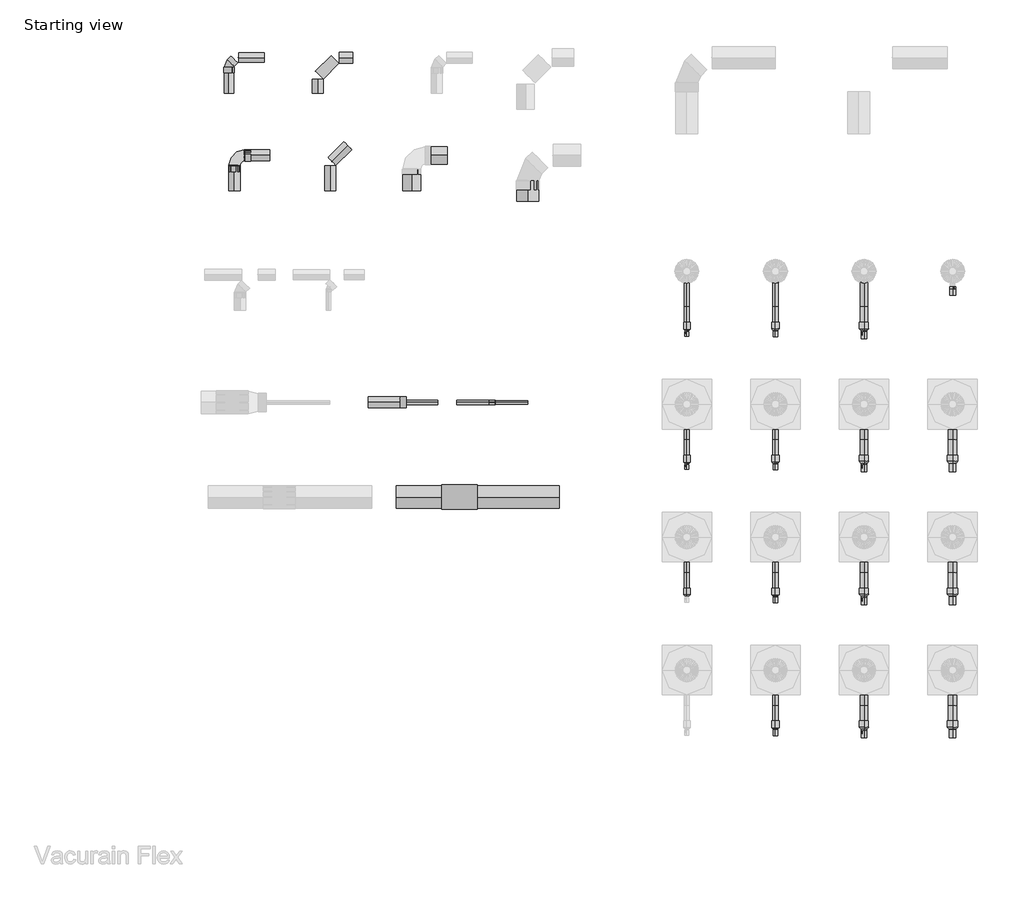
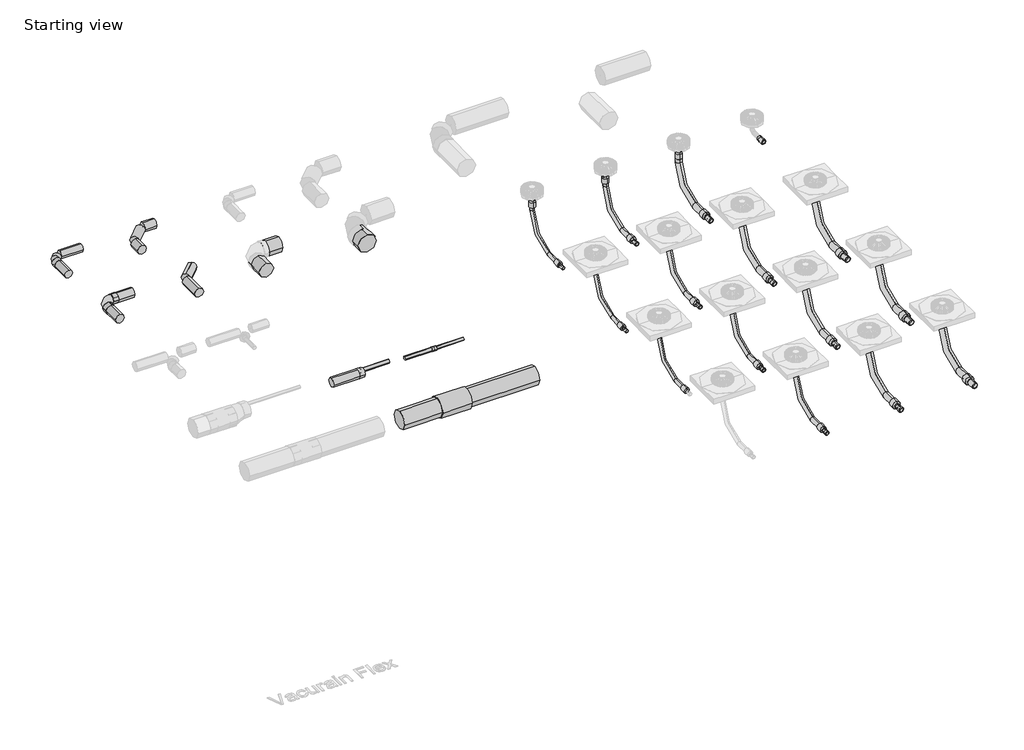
# One storey, part 2 of 3: 40 pipe fittings, 32 pipe segments.
"""IFC4 building model written with IfcOpenShell, lengths in millimetres."""

from ifc_helpers import new_model, si_unit, point, frame, frame_2d, origin, place, context, project, spatial, circle_curve, trimmed, segment, composite_curve, outline, extrude, transform, mapped, element, save
from components import nested_do_not_use_87300143, nested_do_not_use_da8473c7, nested_do_not_use_0ebd4f94, nested_do_not_use_587135c4, nested_do_not_use_1c18247b, nested_do_not_use_86b0c81e, nested_do_not_use_266bb334, nested_do_not_use_9b06eb31, nested_do_not_use_faedce5e, nested_do_not_use_786f549d, nested_do_not_use_5249c4b3, nested_do_not_use_9aa22a94, nested_do_not_use_1dabd0ae, nested_do_not_use_62e140e3, var_32dd6fe3, var_fa9adf68, var_8dcc252d, var_f0e763de, var_ae69e88d, var_ccfafadd, var_8f0a1fe7, nested_do_not_use_e4e1583a, nested_do_not_use_892fd5c0, nested_do_not_use_e5d02ef7, nested_do_not_use_11bc6f6c, nested_do_not_use_b77c716e

model = new_model("IFC4")

# Units and contexts
model_context = context("Model", 3, world=origin())
ifc_project = project(units=[si_unit("LENGTHUNIT", "METRE", prefix="MILLI")], contexts=[model_context])

# Site, building, storey
site = spatial("IfcSite", under=ifc_project)
building = spatial("IfcBuilding", under=site)
storey = spatial("IfcBuildingStorey", under=building, Name="Starting view", Elevation=0.0)

# Pipe fittings
placement = place(None, origin())
nested_do_not_use_shape = nested_do_not_use_87300143(model_context)
element("IfcPipeFitting", 1, ObjectType="NLRS_52_PIF_UN_Vacurain Flex spiebus_SH_Dyka : nested, do not use", at=placement, inside=storey, context=model_context, shape_type="MappedRepresentation", body=[
    mapped(nested_do_not_use_shape, transform((8549.7193273, -9655.1399334, 139.0), x_axis=(0.0, 1.0, 0.0), y_axis=(0.0, 0.0, 1.0), z_axis=(1.0, 0.0, 0.0))),
])
element("IfcPipeFitting", 2, ObjectType="NLRS_52_PIF_UN_Vacurain Flex spiebus_SH_Dyka : nested, do not use", at=placement, inside=storey, context=model_context, shape_type="MappedRepresentation", body=[
    mapped(nested_do_not_use_shape, transform((8549.7193273, -12655.1399334, 139.0), x_axis=(0.0, 1.0, 0.0), y_axis=(0.0, 0.0, 1.0), z_axis=(1.0, 0.0, 0.0))),
])
element("IfcPipeFitting", 3, ObjectType="NLRS_52_PIF_UN_Vacurain Flex spiebus_SH_Dyka : nested, do not use", at=placement, inside=storey, context=model_context, shape_type="MappedRepresentation", body=[
    mapped(nested_do_not_use_shape, transform((8549.7193273, -14155.1399334, 139.0), x_axis=(0.0, 1.0, 0.0), y_axis=(0.0, 0.0, 1.0), z_axis=(1.0, 0.0, 0.0))),
])
element("IfcPipeFitting", 4, ObjectType="NLRS_52_PIF_UN_Vacurain Flex spiebus_SH_Dyka : nested, do not use", at=placement, inside=storey, context=model_context, shape_type="MappedRepresentation", body=[
    mapped(nested_do_not_use_shape, transform((8549.7193273, -11155.1399334, 139.0), x_axis=(0.0, 1.0, 0.0), y_axis=(0.0, 0.0, 1.0), z_axis=(1.0, 0.0, 0.0))),
])
nested_do_not_use_2_shape = nested_do_not_use_da8473c7(model_context)
element("IfcPipeFitting", 5, ObjectType="NLRS_52_PIF_UN_Vacurain Flex borgbus_SH_Dyka : nested, do not use", at=placement, inside=storey, context=model_context, shape_type="MappedRepresentation", body=[
    mapped(nested_do_not_use_2_shape, transform((10549.7193273, -9194.1399334, 627.0), x_axis=(0.0, -1.0, 0.0), y_axis=(0.0, 0.0, -1.0), z_axis=(1.0, 0.0, 0.0))),
])
nested_do_not_use_3_shape = nested_do_not_use_0ebd4f94(model_context)
element("IfcPipeFitting", 6, ObjectType="NLRS_52_PIF_UN_Vacurain Flex klikmof_SH_Dyka : nested, do not use", at=placement, inside=storey, context=model_context, shape_type="MappedRepresentation", body=[
    mapped(nested_do_not_use_3_shape, transform((10549.7193273, -9202.1399334, 627.0), x_axis=(0.0, -1.0, 0.0), y_axis=(0.0, 0.0, -1.0), z_axis=(1.0, 0.0, 0.0))),
])
nested_do_not_use_4_shape = nested_do_not_use_587135c4(model_context)
element("IfcPipeFitting", 7, ObjectType="NLRS_52_PIF_UN_Vacurain Flex spiebus_SH_Dyka : nested, do not use", at=placement, inside=storey, context=model_context, shape_type="MappedRepresentation", body=[
    mapped(nested_do_not_use_4_shape, transform((7549.3431339, -9655.1399334, 139.0), x_axis=(0.0, 1.0, 0.0), y_axis=(0.0, 0.0, 1.0), z_axis=(1.0, 0.0, 0.0))),
])
element("IfcPipeFitting", 8, ObjectType="NLRS_52_PIF_UN_Vacurain Flex spiebus_SH_Dyka : nested, do not use", at=placement, inside=storey, context=model_context, shape_type="MappedRepresentation", body=[
    mapped(nested_do_not_use_4_shape, transform((7549.3431339, -11155.1399334, 139.0), x_axis=(0.0, 1.0, 0.0), y_axis=(0.0, 0.0, 1.0), z_axis=(1.0, 0.0, 0.0))),
])
nested_do_not_use_5_shape = nested_do_not_use_1c18247b(model_context)
element("IfcPipeFitting", 9, ObjectType="NLRS_52_PIF_UN_Vacurain Flex spiebus_SH_Dyka : nested, do not use", at=placement, inside=storey, context=model_context, shape_type="MappedRepresentation", body=[
    mapped(nested_do_not_use_5_shape, transform((9549.3431339, -9662.1399334, 139.0), x_axis=(0.0, 1.0, 0.0), y_axis=(0.0, 0.0, 1.0), z_axis=(1.0, 0.0, 0.0))),
])
element("IfcPipeFitting", 10, ObjectType="NLRS_52_PIF_UN_Vacurain Flex spiebus_SH_Dyka : nested, do not use", at=placement, inside=storey, context=model_context, shape_type="MappedRepresentation", body=[
    mapped(nested_do_not_use_5_shape, transform((9549.3431339, -11162.1399334, 139.0), x_axis=(0.0, 1.0, 0.0), y_axis=(0.0, 0.0, 1.0), z_axis=(1.0, 0.0, 0.0))),
])
element("IfcPipeFitting", 11, ObjectType="NLRS_52_PIF_UN_Vacurain Flex spiebus_SH_Dyka : nested, do not use", at=placement, inside=storey, context=model_context, shape_type="MappedRepresentation", body=[
    mapped(nested_do_not_use_5_shape, transform((9549.3431339, -12662.1399334, 139.0), x_axis=(0.0, 1.0, 0.0), y_axis=(0.0, 0.0, 1.0), z_axis=(1.0, 0.0, 0.0))),
])
element("IfcPipeFitting", 12, ObjectType="NLRS_52_PIF_UN_Vacurain Flex spiebus_SH_Dyka : nested, do not use", at=placement, inside=storey, context=model_context, shape_type="MappedRepresentation", body=[
    mapped(nested_do_not_use_5_shape, transform((9549.3431339, -14162.1399334, 139.0), x_axis=(0.0, 1.0, 0.0), y_axis=(0.0, 0.0, 1.0), z_axis=(1.0, 0.0, 0.0))),
])
nested_do_not_use_6_shape = nested_do_not_use_86b0c81e(model_context)
element("IfcPipeFitting", 13, ObjectType="NLRS_52_PIF_UN_Vacurain Flex spiebus_SH_Dyka : nested, do not use", at=placement, inside=storey, context=model_context, shape_type="MappedRepresentation", body=[
    mapped(nested_do_not_use_6_shape, transform((10549.3431339, -11160.6399334, 139.0), x_axis=(0.0, 1.0, 0.0), y_axis=(0.0, 0.0, 1.0), z_axis=(1.0, 0.0, 0.0))),
])
element("IfcPipeFitting", 14, ObjectType="NLRS_52_PIF_UN_Vacurain Flex spiebus_SH_Dyka : nested, do not use", at=placement, inside=storey, context=model_context, shape_type="MappedRepresentation", body=[
    mapped(nested_do_not_use_6_shape, transform((10549.3431339, -12660.6399334, 139.0), x_axis=(0.0, 1.0, 0.0), y_axis=(0.0, 0.0, 1.0), z_axis=(1.0, 0.0, 0.0))),
])
element("IfcPipeFitting", 15, ObjectType="NLRS_52_PIF_UN_Vacurain Flex spiebus_SH_Dyka : nested, do not use", at=placement, inside=storey, context=model_context, shape_type="MappedRepresentation", body=[
    mapped(nested_do_not_use_6_shape, transform((10549.3431339, -14160.6399334, 139.0), x_axis=(0.0, 1.0, 0.0), y_axis=(0.0, 0.0, 1.0), z_axis=(1.0, 0.0, 0.0))),
])
nested_do_not_use_7_shape = nested_do_not_use_266bb334(model_context)
element("IfcPipeFitting", 16, ObjectType="NLRS_52_PIF_UN_Vacurain Flex steekmof_SH_Dyka : nested, do not use", at=placement, inside=storey, context=model_context, shape_type="MappedRepresentation", body=[
    mapped(nested_do_not_use_7_shape, transform((5350.2772962, -10468.7826774, 200.0), x_axis=(1.0, 0.0, 0.0), y_axis=(0.0, 1.0, 0.0), z_axis=(0.0, 0.0, 1.0))),
])
element("IfcPipeFitting", 17, ObjectType="NLRS_52_PIF_UN_Vacurain Flex steekmof_SH_Dyka : nested, do not use", at=placement, inside=storey, context=model_context, shape_type="MappedRepresentation", body=[
    mapped(nested_do_not_use_7_shape, transform((8549.7193273, -9697.1399334, 139.0), x_axis=(0.0, 1.0, 0.0), y_axis=(0.0, 0.0, 1.0), z_axis=(1.0, 0.0, 0.0))),
])
element("IfcPipeFitting", 18, ObjectType="NLRS_52_PIF_UN_Vacurain Flex steekmof_SH_Dyka : nested, do not use", at=placement, inside=storey, context=model_context, shape_type="MappedRepresentation", body=[
    mapped(nested_do_not_use_7_shape, transform((8549.7193273, -12697.1399334, 139.0), x_axis=(0.0, 1.0, 0.0), y_axis=(0.0, 0.0, 1.0), z_axis=(1.0, 0.0, 0.0))),
])
element("IfcPipeFitting", 19, ObjectType="NLRS_52_PIF_UN_Vacurain Flex steekmof_SH_Dyka : nested, do not use", at=placement, inside=storey, context=model_context, shape_type="MappedRepresentation", body=[
    mapped(nested_do_not_use_7_shape, transform((8549.7193273, -14197.1399334, 139.0), x_axis=(0.0, 1.0, 0.0), y_axis=(0.0, 0.0, 1.0), z_axis=(1.0, 0.0, 0.0))),
])
element("IfcPipeFitting", 20, ObjectType="NLRS_52_PIF_UN_Vacurain Flex steekmof_SH_Dyka : nested, do not use", at=placement, inside=storey, context=model_context, shape_type="MappedRepresentation", body=[
    mapped(nested_do_not_use_7_shape, transform((8549.7193273, -11197.1399334, 139.0), x_axis=(0.0, 1.0, 0.0), y_axis=(0.0, 0.0, 1.0), z_axis=(1.0, 0.0, 0.0))),
])
nested_do_not_use_8_shape = nested_do_not_use_9b06eb31(model_context)
element("IfcPipeFitting", 21, ObjectType="NLRS_52_PIF_UN_Vacurain Flex steekmof_SH_Dyka : nested, do not use", at=placement, inside=storey, context=model_context, shape_type="MappedRepresentation", body=[
    mapped(nested_do_not_use_8_shape, transform((7549.3431339, -9697.1399334, 139.0), x_axis=(0.0, 1.0, 0.0), y_axis=(0.0, 0.0, 1.0), z_axis=(1.0, 0.0, 0.0))),
])
element("IfcPipeFitting", 22, ObjectType="NLRS_52_PIF_UN_Vacurain Flex steekmof_SH_Dyka : nested, do not use", at=placement, inside=storey, context=model_context, shape_type="MappedRepresentation", body=[
    mapped(nested_do_not_use_8_shape, transform((7549.3431339, -11197.1399334, 139.0), x_axis=(0.0, 1.0, 0.0), y_axis=(0.0, 0.0, 1.0), z_axis=(1.0, 0.0, 0.0))),
])
nested_do_not_use_9_shape = nested_do_not_use_faedce5e(model_context)
element("IfcPipeFitting", 23, ObjectType="NLRS_52_PIF_UN_Vacurain Flex steekmof_SH_Dyka : nested, do not use", at=placement, inside=storey, context=model_context, shape_type="MappedRepresentation", body=[
    mapped(nested_do_not_use_9_shape, transform((9549.3431339, -9711.1399334, 139.0), x_axis=(0.0, 1.0, 0.0), y_axis=(0.0, 0.0, 1.0), z_axis=(1.0, 0.0, 0.0))),
])
element("IfcPipeFitting", 24, ObjectType="NLRS_52_PIF_UN_Vacurain Flex steekmof_SH_Dyka : nested, do not use", at=placement, inside=storey, context=model_context, shape_type="MappedRepresentation", body=[
    mapped(nested_do_not_use_9_shape, transform((9549.3431339, -11211.1399334, 139.0), x_axis=(0.0, 1.0, 0.0), y_axis=(0.0, 0.0, 1.0), z_axis=(1.0, 0.0, 0.0))),
])
element("IfcPipeFitting", 25, ObjectType="NLRS_52_PIF_UN_Vacurain Flex steekmof_SH_Dyka : nested, do not use", at=placement, inside=storey, context=model_context, shape_type="MappedRepresentation", body=[
    mapped(nested_do_not_use_9_shape, transform((9549.3431339, -12711.1399334, 139.0), x_axis=(0.0, 1.0, 0.0), y_axis=(0.0, 0.0, 1.0), z_axis=(1.0, 0.0, 0.0))),
])
element("IfcPipeFitting", 26, ObjectType="NLRS_52_PIF_UN_Vacurain Flex steekmof_SH_Dyka : nested, do not use", at=placement, inside=storey, context=model_context, shape_type="MappedRepresentation", body=[
    mapped(nested_do_not_use_9_shape, transform((9549.3431339, -14211.1399334, 139.0), x_axis=(0.0, 1.0, 0.0), y_axis=(0.0, 0.0, 1.0), z_axis=(1.0, 0.0, 0.0))),
])
nested_do_not_use_10_shape = nested_do_not_use_786f549d(model_context)
element("IfcPipeFitting", 27, ObjectType="NLRS_52_PIF_UN_Vacurain Flex steekmof_SH_Dyka : nested, do not use", at=placement, inside=storey, context=model_context, shape_type="MappedRepresentation", body=[
    mapped(nested_do_not_use_10_shape, transform((10549.3431339, -11208.1399334, 139.0), x_axis=(0.0, 1.0, 0.0), y_axis=(0.0, 0.0, 1.0), z_axis=(1.0, 0.0, 0.0))),
])
element("IfcPipeFitting", 28, ObjectType="NLRS_52_PIF_UN_Vacurain Flex steekmof_SH_Dyka : nested, do not use", at=placement, inside=storey, context=model_context, shape_type="MappedRepresentation", body=[
    mapped(nested_do_not_use_10_shape, transform((10549.3431339, -12708.1399334, 139.0), x_axis=(0.0, 1.0, 0.0), y_axis=(0.0, 0.0, 1.0), z_axis=(1.0, 0.0, 0.0))),
])
element("IfcPipeFitting", 29, ObjectType="NLRS_52_PIF_UN_Vacurain Flex steekmof_SH_Dyka : nested, do not use", at=placement, inside=storey, context=model_context, shape_type="MappedRepresentation", body=[
    mapped(nested_do_not_use_10_shape, transform((10549.3431339, -14208.1399334, 139.0), x_axis=(0.0, 1.0, 0.0), y_axis=(0.0, 0.0, 1.0), z_axis=(1.0, 0.0, 0.0))),
])
nested_do_not_use_11_shape = nested_do_not_use_5249c4b3(model_context)
element("IfcPipeFitting", 30, ObjectType="NLRS_52_PIF_UN_Vacurain Flex verloop LV_SH_Dyka : nested, do not use", at=placement, inside=storey, context=model_context, shape_type="MappedRepresentation", body=[
    mapped(nested_do_not_use_11_shape, transform((5366.2772962, -10468.7826774, 200.0), x_axis=(-1.0, 0.0, 0.0), y_axis=(0.0, -1.0, 0.0), z_axis=(0.0, 0.0, 1.0))),
])
nested_do_not_use_12_shape = nested_do_not_use_9aa22a94(model_context)
element("IfcPipeFitting", 31, ObjectType="NLRS_52_PIF_UN_Vacurain Flex verloop LV_SH_Dyka : nested, do not use", at=placement, inside=storey, context=model_context, shape_type="MappedRepresentation", body=[
    mapped(nested_do_not_use_12_shape, transform((4327.2772962, -10468.7826774, 200.0), x_axis=(-1.0, 0.0, 0.0), y_axis=(0.0, -1.0, 0.0), z_axis=(0.0, 0.0, 1.0))),
])
nested_do_not_use_13_shape = nested_do_not_use_1dabd0ae(model_context)
element("IfcPipeFitting", 32, ObjectType="NLRS_52_PIF_UN_Vacurain Flex bocht 1LV_SH_Dyka : nested, do not use", at=placement, inside=storey, context=model_context, shape_type="MappedRepresentation", body=[
    mapped(nested_do_not_use_13_shape, transform((2381.9213273, -6658.8518157, 200.0), x_axis=(-0.7071067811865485, -0.7071067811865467, 0.0), y_axis=(0.7071067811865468, -0.7071067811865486, 0.0), z_axis=(0.0, 0.0, 1.0000000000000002))),
])
nested_do_not_use_14_shape = nested_do_not_use_62e140e3(model_context)
element("IfcPipeFitting", 33, ObjectType="NLRS_52_PIF_UN_Vacurain Flex bocht 2LV_SH_Dyka : nested, do not use", at=placement, inside=storey, context=model_context, shape_type="MappedRepresentation", body=[
    mapped(nested_do_not_use_14_shape, transform((2444.5626134, -7680.905443, 200.0), x_axis=(-1.0, 0.0, 0.0), y_axis=(0.0, -1.0, 0.0), z_axis=(0.0, 0.0, 1.0))),
])
var_shape = var_32dd6fe3(model_context)
element("IfcPipeFitting", 34, ObjectType="NLRS_52_PIF_UN_Vacurain Flex expansiestuk_Dyka : var.", at=placement, inside=storey, context=model_context, shape_type="MappedRepresentation", body=[
    mapped(var_shape, transform((5069.3431339, -11536.7281676, 200.0), x_axis=(1.0, 0.0, 0.0), y_axis=(0.0, 1.0, 0.0), z_axis=(0.0, 0.0, 1.0))),
])
var_2_shape = var_fa9adf68(model_context)
element("IfcPipeFitting", 35, ObjectType="NLRS_52_PIF_UN_Vacurain Flex multi reducer_Dyka : var.", at=placement, inside=storey, context=model_context, shape_type="MappedRepresentation", body=[
    mapped(var_2_shape, transform((5351.2772962, -10468.7826774, 200.0), x_axis=(1.0, 0.0, 0.0), y_axis=(0.0, 1.0, 0.0), z_axis=(0.0, 0.0, 1.0))),
])
var_3_shape = var_8dcc252d(model_context)
element("IfcPipeFitting", 36, ObjectType="NLRS_52_PIF_UN_Vacurain Flex multi reducer_Dyka : var.", at=placement, inside=storey, context=model_context, shape_type="MappedRepresentation", body=[
    mapped(var_3_shape, transform((4312.2772962, -10468.7826774, 200.0), x_axis=(1.0, 0.0, 0.0), y_axis=(0.0, 1.0, 0.0), z_axis=(0.0, 0.0, 1.0))),
])
var_4_shape = var_f0e763de(model_context)
element("IfcPipeFitting", 37, ObjectType="NLRS_52_PIF_UN_Vacurain Flex multi bocht_Dyka : var.", at=placement, inside=storey, context=model_context, shape_type="MappedRepresentation", body=[
    mapped(var_4_shape, transform((2444.5626134, -7680.905443, 200.0), x_axis=(-1.0, 0.0, 0.0), y_axis=(0.0, -1.0, 0.0), z_axis=(0.0, 0.0, 1.0))),
])
var_5_shape = var_ae69e88d(model_context)
element("IfcPipeFitting", 38, ObjectType="NLRS_52_PIF_UN_Vacurain Flex multi bocht_Dyka : var.", at=placement, inside=storey, context=model_context, shape_type="MappedRepresentation", body=[
    mapped(var_5_shape, transform((3382.0626134, -6577.3932497, 200.0), x_axis=(-1.0, 0.0, 0.0), y_axis=(0.0, -1.0, 0.0), z_axis=(0.0, 0.0, 1.0))),
])
var_6_shape = var_ccfafadd(model_context)
element("IfcPipeFitting", 39, ObjectType="NLRS_52_PIF_UN_Vacurain Flex multi bocht_Dyka : var.", at=placement, inside=storey, context=model_context, shape_type="MappedRepresentation", body=[
    mapped(var_6_shape, transform((2382.0626134, -6577.3932497, 200.0), x_axis=(-1.0, 0.0, 0.0), y_axis=(0.0, -1.0, 0.0), z_axis=(0.0, 0.0, 1.0))),
])
var_7_shape = var_8f0a1fe7(model_context)
element("IfcPipeFitting", 40, ObjectType="NLRS_52_PIF_UN_Vacurain Flex multi bocht_Dyka : var.", at=placement, inside=storey, context=model_context, shape_type="MappedRepresentation", body=[
    mapped(var_7_shape, transform((3525.1727865, -7768.6701484, 200.0), x_axis=(-0.7071067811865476, -0.7071067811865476, 0.0), y_axis=(0.7071067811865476, -0.7071067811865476, 0.0), z_axis=(0.0, 0.0, 1.0))),
])

# Pipe segments
element("IfcPipeSegment", 41, ObjectType="NLRS_52_PI_Vacurain Flex PVC buis (DN)_Dyka", at=placement, inside=storey, context=model_context, shape_type="SweptSolid", body=[
    extrude(outline(composite_curve([segment(trimmed(circle_curve(frame_2d((200.0, 2444.5626134)), 62.5), [point((200.0, 2382.0626134))], [point((137.5, 2444.5626134))], False, "CARTESIAN"), True, "CONTINUOUS"), segment(trimmed(circle_curve(frame_2d((200.0, 2444.5626134)), 62.5), [point((137.5, 2444.5626134))], [point((200.0, 2507.0626134))], False, "CARTESIAN"), True, "CONTINUOUS"), segment(trimmed(circle_curve(frame_2d((200.0, 2444.5626134)), 62.5), [point((200.0, 2507.0626134))], [point((262.5, 2444.5626134))], False, "CARTESIAN"), True, "CONTINUOUS"), segment(trimmed(circle_curve(frame_2d((200.0, 2444.5626134)), 62.5), [point((262.5, 2444.5626134))], [point((200.0, 2382.0626134))], False, "CARTESIAN"), True, "CONTINUOUS")], self_intersect=False)), frame((0.0, -8080.905443, 0.0), z_axis=(0.0, 1.0, 0.0), x_axis=(0.0, 0.0, 1.0)), (0.0, 0.0, 1.0), 286.0),
])
element("IfcPipeSegment", 42, ObjectType="NLRS_52_PI_Vacurain Flex PVC buis (DN)_Dyka", at=placement, inside=storey, context=model_context, shape_type="SweptSolid", body=[
    extrude(outline(composite_curve([segment(trimmed(circle_curve(frame_2d((-7680.905443, 200.0)), 62.5), [point((-7743.405443, 200.0))], [point((-7680.905443, 262.5))], False, "CARTESIAN"), True, "CONTINUOUS"), segment(trimmed(circle_curve(frame_2d((-7680.905443, 200.0)), 62.5), [point((-7680.905443, 262.5))], [point((-7618.405443, 200.0))], False, "CARTESIAN"), True, "CONTINUOUS"), segment(trimmed(circle_curve(frame_2d((-7680.905443, 200.0)), 62.5), [point((-7618.405443, 200.0))], [point((-7680.905443, 137.5))], False, "CARTESIAN"), True, "CONTINUOUS"), segment(trimmed(circle_curve(frame_2d((-7680.905443, 200.0)), 62.5), [point((-7680.905443, 137.5))], [point((-7743.405443, 200.0))], False, "CARTESIAN"), True, "CONTINUOUS")], self_intersect=False)), frame((2558.5626134, 0.0, 0.0), z_axis=(1.0, 0.0, 0.0), x_axis=(0.0, 1.0, 0.0)), (0.0, 0.0, 1.0), 286.0),
])
element("IfcPipeSegment", 43, ObjectType="NLRS_52_PI_Vacurain Flex PVC buis (DN)_Dyka", at=placement, inside=storey, context=model_context, shape_type="SweptSolid", body=[
    extrude(outline(composite_curve([segment(trimmed(circle_curve(frame_2d((200.0, 3525.1727865)), 62.5), [point((200.0, 3462.6727865))], [point((137.5, 3525.1727865))], False, "CARTESIAN"), True, "CONTINUOUS"), segment(trimmed(circle_curve(frame_2d((200.0, 3525.1727865)), 62.5), [point((137.5, 3525.1727865))], [point((200.0, 3587.6727865))], False, "CARTESIAN"), True, "CONTINUOUS"), segment(trimmed(circle_curve(frame_2d((200.0, 3525.1727865)), 62.5), [point((200.0, 3587.6727865))], [point((262.5, 3525.1727865))], False, "CARTESIAN"), True, "CONTINUOUS"), segment(trimmed(circle_curve(frame_2d((200.0, 3525.1727865)), 62.5), [point((262.5, 3525.1727865))], [point((200.0, 3462.6727865))], False, "CARTESIAN"), True, "CONTINUOUS")], self_intersect=False)), frame((0.0, -8080.905443, 0.0), z_axis=(0.0, 1.0, 0.0), x_axis=(0.0, 0.0, 1.0)), (0.0, 0.0, 1.0), 283.2352946),
])
element("IfcPipeSegment", 44, ObjectType="NLRS_52_PI_Vacurain Flex PVC buis (DN)_Dyka", at=placement, inside=storey, context=model_context, shape_type="SweptSolid", body=[
    extrude(outline(composite_curve([segment(trimmed(circle_curve(frame_2d((200.0, 4444.5626134)), 100.0), [point((200.0, 4344.5626134))], [point((100.0, 4444.5626134))], False, "CARTESIAN"), True, "CONTINUOUS"), segment(trimmed(circle_curve(frame_2d((200.0, 4444.5626134)), 100.0), [point((100.0, 4444.5626134))], [point((200.0, 4544.5626134))], False, "CARTESIAN"), True, "CONTINUOUS"), segment(trimmed(circle_curve(frame_2d((200.0, 4444.5626134)), 100.0), [point((200.0, 4544.5626134))], [point((300.0, 4444.5626134))], False, "CARTESIAN"), True, "CONTINUOUS"), segment(trimmed(circle_curve(frame_2d((200.0, 4444.5626134)), 100.0), [point((300.0, 4444.5626134))], [point((200.0, 4344.5626134))], False, "CARTESIAN"), True, "CONTINUOUS")], self_intersect=False)), frame((0.0, -8080.905443, 0.0), z_axis=(0.0, 1.0, 0.0), x_axis=(0.0, 0.0, 1.0)), (0.0, 0.0, 1.0), 245.0),
])
element("IfcPipeSegment", 45, ObjectType="NLRS_52_PI_Vacurain Flex PVC buis (DN)_Dyka", at=placement, inside=storey, context=model_context, shape_type="SweptSolid", body=[
    extrude(outline(composite_curve([segment(trimmed(circle_curve(frame_2d((-7680.905443, 200.0)), 100.0), [point((-7780.905443, 200.0))], [point((-7680.905443, 300.0))], False, "CARTESIAN"), True, "CONTINUOUS"), segment(trimmed(circle_curve(frame_2d((-7680.905443, 200.0)), 100.0), [point((-7680.905443, 300.0))], [point((-7580.905443, 200.0))], False, "CARTESIAN"), True, "CONTINUOUS"), segment(trimmed(circle_curve(frame_2d((-7680.905443, 200.0)), 100.0), [point((-7580.905443, 200.0))], [point((-7680.905443, 100.0))], False, "CARTESIAN"), True, "CONTINUOUS"), segment(trimmed(circle_curve(frame_2d((-7680.905443, 200.0)), 100.0), [point((-7680.905443, 100.0))], [point((-7780.905443, 200.0))], False, "CARTESIAN"), True, "CONTINUOUS")], self_intersect=False)), frame((4599.5626134, 0.0, 0.0), z_axis=(1.0, 0.0, 0.0), x_axis=(0.0, 1.0, 0.0)), (0.0, 0.0, 1.0), 245.0),
])
element("IfcPipeSegment", 46, ObjectType="NLRS_52_PI_Vacurain Flex PVC buis (DN)_Dyka", at=placement, inside=storey, context=model_context, shape_type="SweptSolid", body=[
    extrude(outline(composite_curve([segment(trimmed(circle_curve(frame_2d((200.0, 2382.0626134)), 55.0), [point((200.0, 2327.0626134))], [point((145.0, 2382.0626134))], False, "CARTESIAN"), True, "CONTINUOUS"), segment(trimmed(circle_curve(frame_2d((200.0, 2382.0626134)), 55.0), [point((145.0, 2382.0626134))], [point((200.0, 2437.0626134))], False, "CARTESIAN"), True, "CONTINUOUS"), segment(trimmed(circle_curve(frame_2d((200.0, 2382.0626134)), 55.0), [point((200.0, 2437.0626134))], [point((255.0, 2382.0626134))], False, "CARTESIAN"), True, "CONTINUOUS"), segment(trimmed(circle_curve(frame_2d((200.0, 2382.0626134)), 55.0), [point((255.0, 2382.0626134))], [point((200.0, 2327.0626134))], False, "CARTESIAN"), True, "CONTINUOUS")], self_intersect=False)), frame((0.0, -6977.3932497, 0.0), z_axis=(0.0, 1.0, 0.0), x_axis=(0.0, 0.0, 1.0)), (0.0, 0.0, 1.0), 289.6827202),
])
element("IfcPipeSegment", 47, ObjectType="NLRS_52_PI_Vacurain Flex PVC buis (DN)_Dyka", at=placement, inside=storey, context=model_context, shape_type="SweptSolid", body=[
    extrude(outline(composite_curve([segment(trimmed(circle_curve(frame_2d((-6577.3932497, 200.0)), 55.0), [point((-6632.3932497, 200.0))], [point((-6577.3932497, 255.0))], False, "CARTESIAN"), True, "CONTINUOUS"), segment(trimmed(circle_curve(frame_2d((-6577.3932497, 200.0)), 55.0), [point((-6577.3932497, 255.0))], [point((-6522.3932497, 200.0))], False, "CARTESIAN"), True, "CONTINUOUS"), segment(trimmed(circle_curve(frame_2d((-6577.3932497, 200.0)), 55.0), [point((-6522.3932497, 200.0))], [point((-6577.3932497, 145.0))], False, "CARTESIAN"), True, "CONTINUOUS"), segment(trimmed(circle_curve(frame_2d((-6577.3932497, 200.0)), 55.0), [point((-6577.3932497, 145.0))], [point((-6632.3932497, 200.0))], False, "CARTESIAN"), True, "CONTINUOUS")], self_intersect=False)), frame((2492.3798933, 0.0, 0.0), z_axis=(1.0, 0.0, 0.0), x_axis=(0.0, 1.0, 0.0)), (0.0, 0.0, 1.0), 289.6827202),
])
element("IfcPipeSegment", 48, ObjectType="NLRS_52_PI_Vacurain Flex PVC buis (DN)_Dyka", at=placement, inside=storey, context=model_context, shape_type="SweptSolid", body=[
    extrude(outline(composite_curve([segment(trimmed(circle_curve(frame_2d((200.0, 3382.0626134)), 62.5), [point((200.0, 3319.5626134))], [point((137.5, 3382.0626134))], False, "CARTESIAN"), True, "CONTINUOUS"), segment(trimmed(circle_curve(frame_2d((200.0, 3382.0626134)), 62.5), [point((137.5, 3382.0626134))], [point((200.0, 3444.5626134))], False, "CARTESIAN"), True, "CONTINUOUS"), segment(trimmed(circle_curve(frame_2d((200.0, 3382.0626134)), 62.5), [point((200.0, 3444.5626134))], [point((262.5, 3382.0626134))], False, "CARTESIAN"), True, "CONTINUOUS"), segment(trimmed(circle_curve(frame_2d((200.0, 3382.0626134)), 62.5), [point((262.5, 3382.0626134))], [point((200.0, 3319.5626134))], False, "CARTESIAN"), True, "CONTINUOUS")], self_intersect=False)), frame((0.0, -6977.3932497, 0.0), z_axis=(0.0, 1.0, 0.0), x_axis=(0.0, 0.0, 1.0)), (0.0, 0.0, 1.0), 153.2111114),
])
element("IfcPipeSegment", 49, ObjectType="NLRS_52_PI_Vacurain Flex PVC buis (DN)_Dyka", at=placement, inside=storey, context=model_context, shape_type="SweptSolid", body=[
    extrude(outline(composite_curve([segment(trimmed(circle_curve(frame_2d((-6577.3932497, 200.0)), 62.5), [point((-6639.8932497, 200.0))], [point((-6577.3932497, 262.5))], False, "CARTESIAN"), True, "CONTINUOUS"), segment(trimmed(circle_curve(frame_2d((-6577.3932497, 200.0)), 62.5), [point((-6577.3932497, 262.5))], [point((-6514.8932497, 200.0))], False, "CARTESIAN"), True, "CONTINUOUS"), segment(trimmed(circle_curve(frame_2d((-6577.3932497, 200.0)), 62.5), [point((-6514.8932497, 200.0))], [point((-6577.3932497, 137.5))], False, "CARTESIAN"), True, "CONTINUOUS"), segment(trimmed(circle_curve(frame_2d((-6577.3932497, 200.0)), 62.5), [point((-6577.3932497, 137.5))], [point((-6639.8932497, 200.0))], False, "CARTESIAN"), True, "CONTINUOUS")], self_intersect=False)), frame((3628.8515021, 0.0, 0.0), z_axis=(1.0, 0.0, 0.0), x_axis=(0.0, 1.0, 0.0)), (0.0, 0.0, 1.0), 153.2111114),
])
element("IfcPipeSegment", 50, ObjectType="NLRS_52_PI_Vacurain Flex PVC buis (DN)_Dyka", at=placement, inside=storey, context=model_context, shape_type="SweptSolid", body=[
    extrude(outline(composite_curve([segment(trimmed(circle_curve(frame_2d((-10468.7826774, 200.0)), 62.5), [point((-10531.2826774, 200.0))], [point((-10468.7826774, 262.5))], False, "CARTESIAN"), True, "CONTINUOUS"), segment(trimmed(circle_curve(frame_2d((-10468.7826774, 200.0)), 62.5), [point((-10468.7826774, 262.5))], [point((-10406.2826774, 200.0))], False, "CARTESIAN"), True, "CONTINUOUS"), segment(trimmed(circle_curve(frame_2d((-10468.7826774, 200.0)), 62.5), [point((-10406.2826774, 200.0))], [point((-10468.7826774, 137.5))], False, "CARTESIAN"), True, "CONTINUOUS"), segment(trimmed(circle_curve(frame_2d((-10468.7826774, 200.0)), 62.5), [point((-10468.7826774, 137.5))], [point((-10531.2826774, 200.0))], False, "CARTESIAN"), True, "CONTINUOUS")], self_intersect=False)), frame((3954.7772962, 0.0, 0.0), z_axis=(1.0, 0.0, 0.0), x_axis=(0.0, 1.0, 0.0)), (0.0, 0.0, 1.0), 357.5),
])
element("IfcPipeSegment", 51, ObjectType="NLRS_52_PI_Vacurain Flex PVC buis (DN)_Dyka", at=placement, inside=storey, context=model_context, shape_type="SweptSolid", body=[
    extrude(outline(composite_curve([segment(trimmed(circle_curve(frame_2d((-10468.7826774, 200.0)), 25.0), [point((-10493.7826774, 200.0))], [point((-10468.7826774, 225.0))], False, "CARTESIAN"), True, "CONTINUOUS"), segment(trimmed(circle_curve(frame_2d((-10468.7826774, 200.0)), 25.0), [point((-10468.7826774, 225.0))], [point((-10443.7826774, 200.0))], False, "CARTESIAN"), True, "CONTINUOUS"), segment(trimmed(circle_curve(frame_2d((-10468.7826774, 200.0)), 25.0), [point((-10443.7826774, 200.0))], [point((-10468.7826774, 175.0))], False, "CARTESIAN"), True, "CONTINUOUS"), segment(trimmed(circle_curve(frame_2d((-10468.7826774, 200.0)), 25.0), [point((-10468.7826774, 175.0))], [point((-10493.7826774, 200.0))], False, "CARTESIAN"), True, "CONTINUOUS")], self_intersect=False)), frame((4954.7772962, 0.0, 0.0), z_axis=(1.0, 0.0, 0.0), x_axis=(0.0, 1.0, 0.0)), (0.0, 0.0, 1.0), 394.5),
])
element("IfcPipeSegment", 52, ObjectType="NLRS_52_PI_Vacurain Flex PVC buis (DN)_Dyka", at=placement, inside=storey, context=model_context, shape_type="SweptSolid", body=[
    extrude(outline(composite_curve([segment(trimmed(circle_curve(frame_2d((-10468.7826774, 200.0)), 20.0), [point((-10488.7826774, 200.0))], [point((-10468.7826774, 220.0))], False, "CARTESIAN"), True, "CONTINUOUS"), segment(trimmed(circle_curve(frame_2d((-10468.7826774, 200.0)), 20.0), [point((-10468.7826774, 220.0))], [point((-10448.7826774, 200.0))], False, "CARTESIAN"), True, "CONTINUOUS"), segment(trimmed(circle_curve(frame_2d((-10468.7826774, 200.0)), 20.0), [point((-10448.7826774, 200.0))], [point((-10468.7826774, 180.0))], False, "CARTESIAN"), True, "CONTINUOUS"), segment(trimmed(circle_curve(frame_2d((-10468.7826774, 200.0)), 20.0), [point((-10468.7826774, 180.0))], [point((-10488.7826774, 200.0))], False, "CARTESIAN"), True, "CONTINUOUS")], self_intersect=False)), frame((5358.2772962, 0.0, 0.0), z_axis=(1.0, 0.0, 0.0), x_axis=(0.0, 1.0, 0.0)), (0.0, 0.0, 1.0), 396.5),
])
element("IfcPipeSegment", 53, ObjectType="NLRS_52_PI_Vacurain Flex PVC buis (DN)_Dyka", at=placement, inside=storey, context=model_context, shape_type="SweptSolid", body=[
    extrude(outline(composite_curve([segment(trimmed(circle_curve(frame_2d((-11536.7281676, 200.0)), 125.0), [point((-11661.7281676, 200.0))], [point((-11536.7281676, 325.0))], False, "CARTESIAN"), True, "CONTINUOUS"), segment(trimmed(circle_curve(frame_2d((-11536.7281676, 200.0)), 125.0), [point((-11536.7281676, 325.0))], [point((-11411.7281676, 200.0))], False, "CARTESIAN"), True, "CONTINUOUS"), segment(trimmed(circle_curve(frame_2d((-11536.7281676, 200.0)), 125.0), [point((-11411.7281676, 200.0))], [point((-11536.7281676, 75.0))], False, "CARTESIAN"), True, "CONTINUOUS"), segment(trimmed(circle_curve(frame_2d((-11536.7281676, 200.0)), 125.0), [point((-11536.7281676, 75.0))], [point((-11661.7281676, 200.0))], False, "CARTESIAN"), True, "CONTINUOUS")], self_intersect=False)), frame((4269.3431339, 0.0, 0.0), z_axis=(1.0, 0.0, 0.0), x_axis=(0.0, 1.0, 0.0)), (0.0, 0.0, 1.0), 687.0),
])
element("IfcPipeSegment", 54, ObjectType="NLRS_52_PI_Vacurain Flex PVC buis (DN)_Dyka", at=placement, inside=storey, context=model_context, shape_type="SweptSolid", body=[
    extrude(outline(composite_curve([segment(trimmed(circle_curve(frame_2d((-11536.7281676, 200.0)), 125.0), [point((-11661.7281676, 200.0))], [point((-11536.7281676, 325.0))], False, "CARTESIAN"), True, "CONTINUOUS"), segment(trimmed(circle_curve(frame_2d((-11536.7281676, 200.0)), 125.0), [point((-11536.7281676, 325.0))], [point((-11411.7281676, 200.0))], False, "CARTESIAN"), True, "CONTINUOUS"), segment(trimmed(circle_curve(frame_2d((-11536.7281676, 200.0)), 125.0), [point((-11411.7281676, 200.0))], [point((-11536.7281676, 75.0))], False, "CARTESIAN"), True, "CONTINUOUS"), segment(trimmed(circle_curve(frame_2d((-11536.7281676, 200.0)), 125.0), [point((-11536.7281676, 75.0))], [point((-11661.7281676, 200.0))], False, "CARTESIAN"), True, "CONTINUOUS")], self_intersect=False)), frame((5082.3431339, 0.0, 0.0), z_axis=(1.0, 0.0, 0.0), x_axis=(0.0, 1.0, 0.0)), (0.0, 0.0, 1.0), 1029.5),
])
element("IfcPipeSegment", 55, ObjectType="NLRS_52_PI_Vacurain Flex PVC buis (DN)_Dyka", at=placement, inside=storey, context=model_context, shape_type="SweptSolid", body=[
    extrude(outline(composite_curve([segment(trimmed(circle_curve(frame_2d((-10468.7826774, 234.0)), 25.0), [point((-10493.7826774, 234.0))], [point((-10468.7826774, 259.0))], False, "CARTESIAN"), True, "CONTINUOUS"), segment(trimmed(circle_curve(frame_2d((-10468.7826774, 234.0)), 25.0), [point((-10468.7826774, 259.0))], [point((-10443.7826774, 234.0))], False, "CARTESIAN"), True, "CONTINUOUS"), segment(trimmed(circle_curve(frame_2d((-10468.7826774, 234.0)), 25.0), [point((-10443.7826774, 234.0))], [point((-10468.7826774, 209.0))], False, "CARTESIAN"), True, "CONTINUOUS"), segment(trimmed(circle_curve(frame_2d((-10468.7826774, 234.0)), 25.0), [point((-10468.7826774, 209.0))], [point((-10493.7826774, 234.0))], False, "CARTESIAN"), True, "CONTINUOUS")], self_intersect=False)), frame((4350.2772962, 0.0, 0.0), z_axis=(1.0, 0.0, 0.0), x_axis=(0.0, 1.0, 0.0)), (0.0, 0.0, 1.0), 386.0),
])
element("IfcPipeSegment", 56, ObjectType="NLRS_52_PI_Vacurain Flex PVC buis (DN)_Dyka", at=placement, inside=storey, context=model_context, shape_type="SweptSolid", body=[
    extrude(outline(composite_curve([segment(trimmed(circle_curve(frame_2d((0.0, 62.5)), 62.5), [point((62.5, 62.5))], [point((0.0, 0.0))], False, "CARTESIAN"), True, "CONTINUOUS"), segment(trimmed(circle_curve(frame_2d((0.0, 62.5)), 62.5), [point((0.0, 0.0))], [point((-62.5000001, 62.5))], False, "CARTESIAN"), True, "CONTINUOUS"), segment(trimmed(circle_curve(frame_2d((0.0, 62.5)), 62.5), [point((-62.5000001, 62.5))], [point((0.0, 125.0))], False, "CARTESIAN"), True, "CONTINUOUS"), segment(trimmed(circle_curve(frame_2d((0.0, 62.5)), 62.5), [point((0.0, 125.0))], [point((62.5, 62.5))], False, "CARTESIAN"), True, "CONTINUOUS")], self_intersect=False)), frame((3545.6788832, -7748.1640518, 262.5), z_axis=(0.7071067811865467, 0.7071067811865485, 0.0), x_axis=(0.7071067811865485, -0.7071067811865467, 0.0)), (0.0, 0.0, 1.0), 251.0),
])
element("IfcPipeSegment", 57, ObjectType="NLRS_52_PI_Vacurain Flex PVC buis (DN)_Dyka", at=placement, inside=storey, context=model_context, shape_type="SweptSolid", body=[
    extrude(outline(composite_curve([segment(trimmed(circle_curve(frame_2d((200.0, 5754.7772962)), 125.0), [point((200.0, 5629.7772962))], [point((75.0, 5754.7772962))], False, "CARTESIAN"), True, "CONTINUOUS"), segment(trimmed(circle_curve(frame_2d((200.0, 5754.7772962)), 125.0), [point((75.0, 5754.7772962))], [point((200.0, 5879.7772962))], False, "CARTESIAN"), True, "CONTINUOUS"), segment(trimmed(circle_curve(frame_2d((200.0, 5754.7772962)), 125.0), [point((200.0, 5879.7772962))], [point((325.0, 5754.7772962))], False, "CARTESIAN"), True, "CONTINUOUS"), segment(trimmed(circle_curve(frame_2d((200.0, 5754.7772962)), 125.0), [point((325.0, 5754.7772962))], [point((200.0, 5629.7772962))], False, "CARTESIAN"), True, "CONTINUOUS")], self_intersect=False)), frame((0.0, -8195.7467291, 0.0), z_axis=(0.0, 1.0, 0.0), x_axis=(0.0, 0.0, 1.0)), (0.0, 0.0, 1.0), 229.8412861),
])
nested_do_not_use_15_shape = nested_do_not_use_e4e1583a(model_context)
element("IfcPipeSegment", 58, ObjectType="NLRS_52_PIF_UN_Vacurain Flex slang_SH_Dyka : nested, do not use", at=placement, inside=storey, context=model_context, shape_type="MappedRepresentation", body=[
    mapped(nested_do_not_use_15_shape, transform((7549.3431339, -8989.1399334, 639.0), x_axis=(0.0, 1.0, 0.0), y_axis=(0.0, 0.0, 1.0), z_axis=(1.0, 0.0, 0.0))),
])
element("IfcPipeSegment", 59, ObjectType="NLRS_52_PIF_UN_Vacurain Flex slang_SH_Dyka : nested, do not use", at=placement, inside=storey, context=model_context, shape_type="MappedRepresentation", body=[
    mapped(nested_do_not_use_15_shape, transform((7549.3431339, -10489.1399334, 639.0), x_axis=(0.0, 1.0, 0.0), y_axis=(0.0, 0.0, 1.0), z_axis=(1.0, 0.0, 0.0))),
])
element("IfcPipeSegment", 60, ObjectType="NLRS_52_PIF_UN_Vacurain Flex slang_SH_Dyka : nested, do not use", at=placement, inside=storey, context=model_context, shape_type="MappedRepresentation", body=[
    mapped(nested_do_not_use_15_shape, transform((7549.3431339, -11989.1399334, 639.0), x_axis=(0.0, 1.0, 0.0), y_axis=(0.0, 0.0, 1.0), z_axis=(1.0, 0.0, 0.0))),
])
nested_do_not_use_16_shape = nested_do_not_use_892fd5c0(model_context)
element("IfcPipeSegment", 61, ObjectType="NLRS_52_PIF_UN_Vacurain Flex slang_SH_Dyka : nested, do not use", at=placement, inside=storey, context=model_context, shape_type="MappedRepresentation", body=[
    mapped(nested_do_not_use_16_shape, transform((8549.7193273, -8989.1399334, 639.0), x_axis=(0.0, 1.0, 0.0), y_axis=(0.0, 0.0, 1.0), z_axis=(1.0, 0.0, 0.0))),
])
element("IfcPipeSegment", 62, ObjectType="NLRS_52_PIF_UN_Vacurain Flex slang_SH_Dyka : nested, do not use", at=placement, inside=storey, context=model_context, shape_type="MappedRepresentation", body=[
    mapped(nested_do_not_use_16_shape, transform((8549.7193273, -10489.1399334, 639.0), x_axis=(0.0, 1.0, 0.0), y_axis=(0.0, 0.0, 1.0), z_axis=(1.0, 0.0, 0.0))),
])
element("IfcPipeSegment", 63, ObjectType="NLRS_52_PIF_UN_Vacurain Flex slang_SH_Dyka : nested, do not use", at=placement, inside=storey, context=model_context, shape_type="MappedRepresentation", body=[
    mapped(nested_do_not_use_16_shape, transform((8549.7193273, -11989.1399334, 639.0), x_axis=(0.0, 1.0, 0.0), y_axis=(0.0, 0.0, 1.0), z_axis=(1.0, 0.0, 0.0))),
])
element("IfcPipeSegment", 64, ObjectType="NLRS_52_PIF_UN_Vacurain Flex slang_SH_Dyka : nested, do not use", at=placement, inside=storey, context=model_context, shape_type="MappedRepresentation", body=[
    mapped(nested_do_not_use_16_shape, transform((8549.7193273, -13489.1399334, 639.0), x_axis=(0.0, 1.0, 0.0), y_axis=(0.0, 0.0, 1.0), z_axis=(1.0, 0.0, 0.0))),
])
nested_do_not_use_17_shape = nested_do_not_use_e5d02ef7(model_context)
element("IfcPipeSegment", 65, ObjectType="NLRS_52_PIF_UN_Vacurain Flex slang_SH_Dyka : nested, do not use", at=placement, inside=storey, context=model_context, shape_type="MappedRepresentation", body=[
    mapped(nested_do_not_use_17_shape, transform((9549.3431339, -8989.1399334, 639.0), x_axis=(0.0, 1.0, 0.0), y_axis=(0.0, 0.0, 1.0), z_axis=(1.0, 0.0, 0.0))),
])
element("IfcPipeSegment", 66, ObjectType="NLRS_52_PIF_UN_Vacurain Flex slang_SH_Dyka : nested, do not use", at=placement, inside=storey, context=model_context, shape_type="MappedRepresentation", body=[
    mapped(nested_do_not_use_17_shape, transform((9549.3431339, -10489.1399334, 639.0), x_axis=(0.0, 1.0, 0.0), y_axis=(0.0, 0.0, 1.0), z_axis=(1.0, 0.0, 0.0))),
])
element("IfcPipeSegment", 67, ObjectType="NLRS_52_PIF_UN_Vacurain Flex slang_SH_Dyka : nested, do not use", at=placement, inside=storey, context=model_context, shape_type="MappedRepresentation", body=[
    mapped(nested_do_not_use_17_shape, transform((9549.3431339, -11989.1399334, 639.0), x_axis=(0.0, 1.0, 0.0), y_axis=(0.0, 0.0, 1.0), z_axis=(1.0, 0.0, 0.0))),
])
element("IfcPipeSegment", 68, ObjectType="NLRS_52_PIF_UN_Vacurain Flex slang_SH_Dyka : nested, do not use", at=placement, inside=storey, context=model_context, shape_type="MappedRepresentation", body=[
    mapped(nested_do_not_use_17_shape, transform((9549.3431339, -13489.1399334, 639.0), x_axis=(0.0, 1.0, 0.0), y_axis=(0.0, 0.0, 1.0), z_axis=(1.0, 0.0, 0.0))),
])
nested_do_not_use_18_shape = nested_do_not_use_11bc6f6c(model_context)
element("IfcPipeSegment", 69, ObjectType="NLRS_52_PIF_UN_Vacurain Flex slang_SH_Dyka : nested, do not use", at=placement, inside=storey, context=model_context, shape_type="MappedRepresentation", body=[
    mapped(nested_do_not_use_18_shape, transform((10549.3431339, -10489.1399334, 639.0), x_axis=(0.0, 1.0, 0.0), y_axis=(0.0, 0.0, 1.0), z_axis=(1.0, 0.0, 0.0))),
])
element("IfcPipeSegment", 70, ObjectType="NLRS_52_PIF_UN_Vacurain Flex slang_SH_Dyka : nested, do not use", at=placement, inside=storey, context=model_context, shape_type="MappedRepresentation", body=[
    mapped(nested_do_not_use_18_shape, transform((10549.3431339, -11989.1399334, 639.0), x_axis=(0.0, 1.0, 0.0), y_axis=(0.0, 0.0, 1.0), z_axis=(1.0, 0.0, 0.0))),
])
element("IfcPipeSegment", 71, ObjectType="NLRS_52_PIF_UN_Vacurain Flex slang_SH_Dyka : nested, do not use", at=placement, inside=storey, context=model_context, shape_type="MappedRepresentation", body=[
    mapped(nested_do_not_use_18_shape, transform((10549.3431339, -13489.1399334, 639.0), x_axis=(0.0, 1.0, 0.0), y_axis=(0.0, 0.0, 1.0), z_axis=(1.0, 0.0, 0.0))),
])
nested_do_not_use_19_shape = nested_do_not_use_b77c716e(model_context)
element("IfcPipeSegment", 72, ObjectType="NLRS_52_PIF_UN_Vacurain Flex pipe_SH_Dyka : nested, do not use", at=placement, inside=storey, context=model_context, shape_type="MappedRepresentation", body=[
    mapped(nested_do_not_use_19_shape, transform((3579.3454054, -6597.8993464, 200.0), x_axis=(-0.7071067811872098, -0.7071067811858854, 0.0), y_axis=(0.7071067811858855, -0.7071067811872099, 0.0), z_axis=(0.0, 0.0, 1.0000000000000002))),
])

save(model, "model.ifc")
